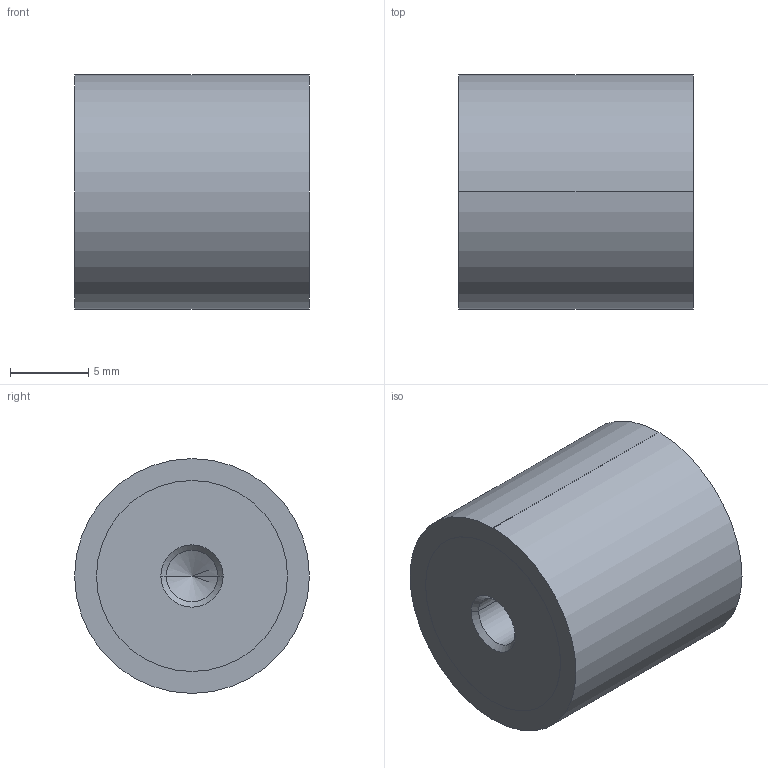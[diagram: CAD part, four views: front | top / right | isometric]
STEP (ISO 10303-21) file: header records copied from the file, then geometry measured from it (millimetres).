
FILE_DESCRIPTION (( 'STEP AP214' ), '1' );
FILE_NAME ('351-15-15-M4-EE-55.step', '2025-07-23T09:47:19', ( '' ), ( '' ), 'SwSTEP 2.0', 'SolidWorks 2022', '' );
FILE_SCHEMA (( 'AUTOMOTIVE_DESIGN' ));
Length unit declared in the file: millimetre
Products named in the file (1): 351-15-15-M4-EE-55
Bounding box: 15 x 15 x 15 mm (x, y, z)
Volume: 2565.1 mm3; surface area: 1152.8 mm2
Topology: 1 solids, 1 shells, 28 faces, 58 edges, 34 vertices
Faces by surface type: cylinder 14, cone 8, plane 6
Entity records: 844 total; most frequent: DIRECTION 144, CARTESIAN_POINT 117, ORIENTED_EDGE 108, AXIS2_PLACEMENT_3D 61, EDGE_CURVE 54, EDGE_LOOP 34, VERTEX_POINT 34, CIRCLE 32
